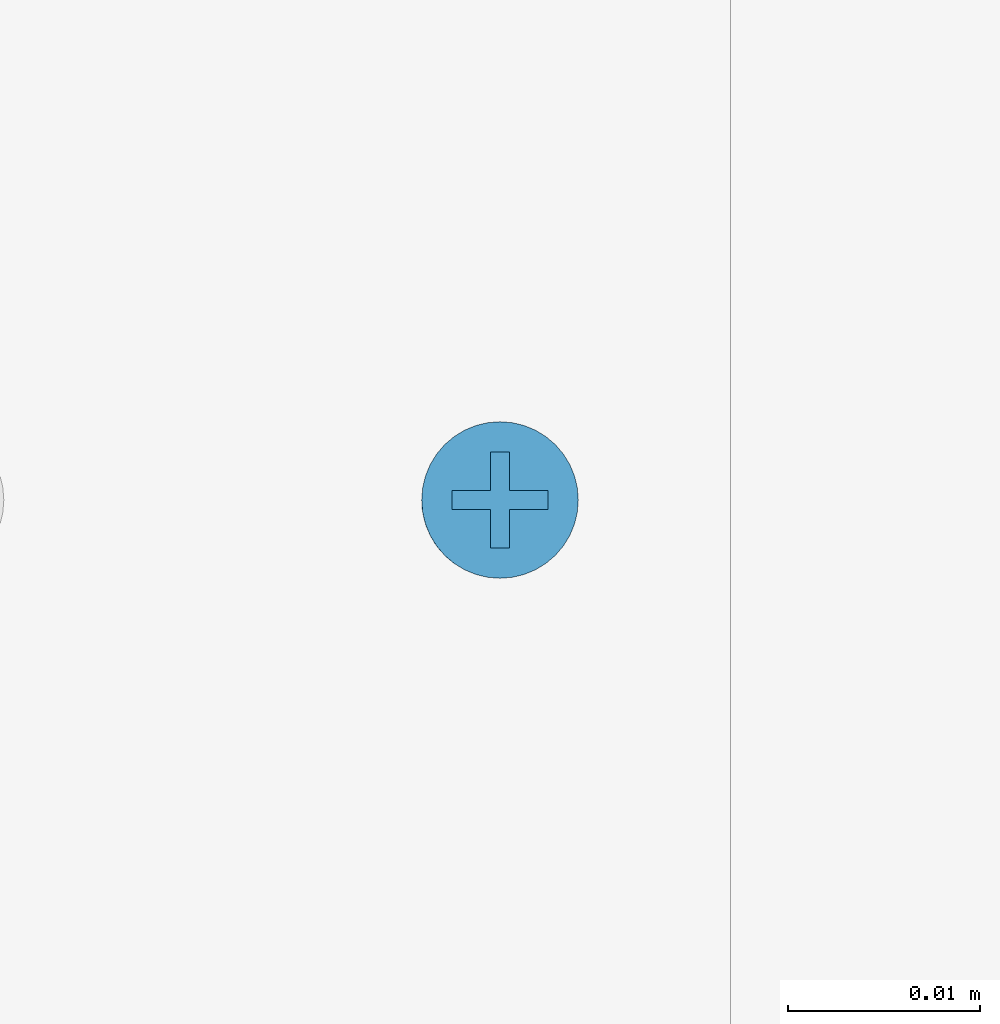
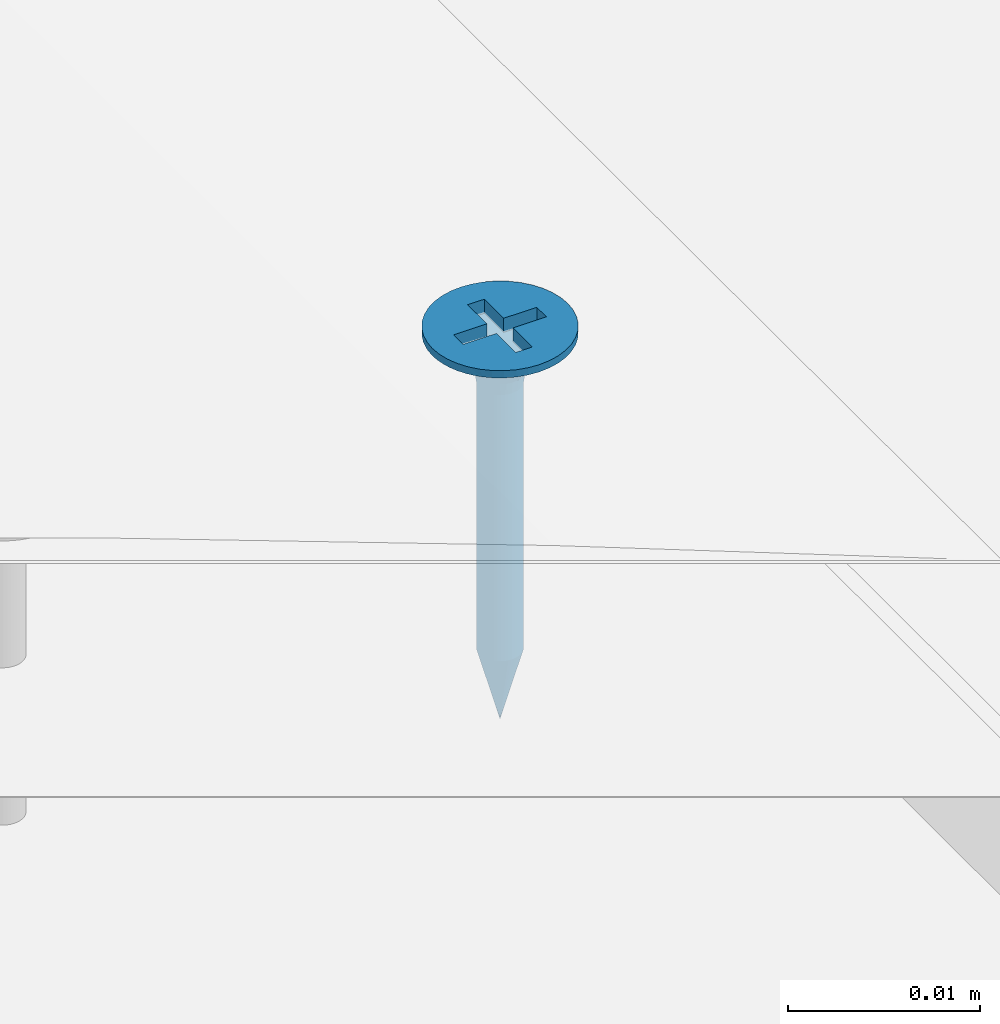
# One storey, part 7 of 38: 1 slab.
"""IFC2X3 building model written with IfcOpenShell, lengths in millimetres."""

import ifcopenshell
import ifcopenshell.guid

model = None  # the IFC model being written
_history = None  # IfcOwnerHistory: only IFC2X3 demands one
_inside = {}  # id of a spatial element -> (the spatial element, [elements in it])
_under = {}  # id of a project, library or spatial element -> (it, [spatial elements below it])
_declared = {}  # id of a project -> (the project, [libraries it declares])
_typed = {}  # id of a type object -> (the type object, [elements of that type])
_made_of = {}  # id of a material, layer set ... -> (it, [elements and type objects made of it])


def new_model(schema):
    """Start an empty IFC model of exactly this schema.

    Asked for "IFC4X3", IfcOpenShell would pick the latest addendum, in which some entities
    have other attributes; the version numbers below select the first issue.
    IFC2X3 requires an IfcOwnerHistory on every rooted entity: one is made here for all.
    """
    global model, _history
    if schema == "IFC4X3":
        model = ifcopenshell.file(schema_version=(4, 3, 0, 0))
    else:
        model = ifcopenshell.file(schema=schema)
    _inside.clear()
    _under.clear()
    _declared.clear()
    _typed.clear()
    _made_of.clear()
    _history = None
    if model.schema == "IFC2X3":
        org = make("IfcOrganization", Name="unknown")
        user = make(
            "IfcPersonAndOrganization",
            ThePerson=make("IfcPerson", FamilyName="unknown"),
            TheOrganization=org,
        )
        app = make(
            "IfcApplication",
            ApplicationDeveloper=org,
            Version="unknown",
            ApplicationFullName="unknown",
            ApplicationIdentifier="unknown",
        )
        _history = make(
            "IfcOwnerHistory",
            OwningUser=user,
            OwningApplication=app,
            ChangeAction="ADDED",
            CreationDate=0,
        )
    return model


def make(cls, **values):
    """One entity of the class cls with the attributes given. An attribute that is None is left unset."""
    return model.create_entity(
        cls, **{name: value for name, value in values.items() if value is not None}
    )


def entity(cls, *values):
    """Any entity or typed value of the class cls, its attributes in the order of the schema. None: left unset."""
    e = model.create_entity(cls)
    for i, value in enumerate(values):
        if value is not None:
            e[i] = value
    return e


def rooted(cls, **values):
    """An entity with a GlobalId (a new one), such as an element, a storey or a relation."""
    return make(cls, GlobalId=ifcopenshell.guid.new(), OwnerHistory=_history, **values)


def si_unit(unit_type, name, prefix=None):
    """IfcSIUnit, for example si_unit("LENGTHUNIT", "METRE", prefix="MILLI")."""
    return make("IfcSIUnit", UnitType=unit_type, Prefix=prefix, Name=name)


def converted_unit(unit_type, name, factor, base, dimensions=None, offset=None):
    """IfcConversionBasedUnit, such as the inch: factor (a typed value) times the base unit."""
    return make(
        "IfcConversionBasedUnit"
        if offset is None
        else "IfcConversionBasedUnitWithOffset",
        ConversionOffset=offset,
        Dimensions=None
        if dimensions is None
        else entity("IfcDimensionalExponents", *dimensions),
        UnitType=unit_type,
        Name=name,
        ConversionFactor=make(
            "IfcMeasureWithUnit", ValueComponent=factor, UnitComponent=base
        ),
    )


def assignment(units):
    """IfcUnitAssignment: the units of a project."""
    return None if units is None else make("IfcUnitAssignment", Units=units)


def point(xyz):
    """IfcCartesianPoint."""
    return None if xyz is None else make("IfcCartesianPoint", Coordinates=xyz)


def direction(xyz):
    """IfcDirection."""
    return None if xyz is None else make("IfcDirection", DirectionRatios=xyz)


def frame(location, z_axis=None, x_axis=None):
    """IfcAxis2Placement3D, a coordinate frame: its origin and axes. An axis left out is left unset."""
    return make(
        "IfcAxis2Placement3D",
        Location=point(location),
        Axis=direction(z_axis),
        RefDirection=direction(x_axis),
    )


def origin():
    """The frame at (0, 0, 0) with its axes left unset."""
    return frame((0.0, 0.0, 0.0))


def origin_with_axes():
    """The frame at (0, 0, 0) with the z axis (0, 0, 1) and the x axis (1, 0, 0) written out."""
    return frame((0.0, 0.0, 0.0), z_axis=(0.0, 0.0, 1.0), x_axis=(1.0, 0.0, 0.0))


def place(relative_to, where):
    """IfcLocalPlacement: puts the frame where relative to a parent placement (None: the world)."""
    return make(
        "IfcLocalPlacement", PlacementRelTo=relative_to, RelativePlacement=where
    )


def context(
    kind, dimensions, precision=None, world=None, true_north=None, identifier=None
):
    """IfcGeometricRepresentationContext, for example the 3D "Model" context."""
    return make(
        "IfcGeometricRepresentationContext",
        ContextIdentifier=identifier,
        ContextType=kind,
        CoordinateSpaceDimension=dimensions,
        Precision=precision,
        WorldCoordinateSystem=world,
        TrueNorth=true_north,
    )


def project(units=None, contexts=None):
    """IfcProject with its units and contexts."""
    return rooted(
        "IfcProject",
        Name="project",
        RepresentationContexts=contexts,
        UnitsInContext=assignment(units),
    )


def spatial(cls, under=None, at=None, **own):
    """A site, building, storey or space (cls), placed at a placement, below another one or the project."""
    s = rooted(cls, ObjectPlacement=at, **own)
    if under is not None:
        _under.setdefault(under.id(), (under, []))[1].append(s)
    return s


def faces_of(points, faces, orient=None, outer=None):
    """IfcFace entities. A face is a list of loops; a loop is a list of indices into points, from 0.

    orient and outer hold one flag for each loop. By default every Orientation is true, the
    first loop of a face is its IfcFaceOuterBound and the others are IfcFaceBound.
    """
    made = []
    for i, loops in enumerate(faces):
        bounds = []
        for j, loop in enumerate(loops):
            is_outer = j == 0 if outer is None else outer[i][j]
            bounds.append(
                make(
                    "IfcFaceOuterBound" if is_outer else "IfcFaceBound",
                    Bound=make("IfcPolyLoop", Polygon=[points[k] for k in loop]),
                    Orientation=True if orient is None else orient[i][j],
                )
            )
        made.append(make("IfcFace", Bounds=bounds))
    return made


def faceted_brep(points, faces, orient=None, outer=None, voids=None):
    """IfcFacetedBrep: a solid bounded by flat faces; with voids (closed shells), ...WithVoids."""
    shared = [point(p) for p in points]
    hull = make("IfcClosedShell", CfsFaces=faces_of(shared, faces, orient, outer))
    if voids is None:
        return make("IfcFacetedBrep", Outer=hull)
    return make(
        "IfcFacetedBrepWithVoids",
        Outer=hull,
        Voids=[
            make(cls, CfsFaces=faces_of(shared, fs, o, b)) for cls, fs, o, b in voids
        ],
    )


def shape(context_of_items, identifier, shape_type, items):
    """IfcShapeRepresentation: the items that make up one representation, for example the "Body"."""
    return make(
        "IfcShapeRepresentation",
        ContextOfItems=context_of_items,
        RepresentationIdentifier=identifier,
        RepresentationType=shape_type,
        Items=items,
    )


def made_of(thing, what):
    """Note that an element or type object is made of a material, layer set ...; save() writes the relation."""
    if what is not None:
        _made_of.setdefault(what.id(), (what, []))[1].append(thing)
    return thing


def element(
    cls,
    number,
    at=None,
    inside=None,
    cuts=None,
    type_object=None,
    material=None,
    context=None,
    identifier="Body",
    shape_type=None,
    held_by="IfcProductDefinitionShape",
    body=None,
    shapes=None,
    **own,
):
    """One element of the class cls, such as IfcWall. Its Tag is "e" and its number.

    at: its placement. inside: the storey or other place that contains it. cuts: it is an
    opening in that element (IfcRelVoidsElement). A single representation is given by context,
    identifier, shape_type and body (its items); several are given by shapes. held_by: the class
    of the entity that holds the representations. save() writes the other relations.
    """
    e = rooted(cls, Tag="e%d" % number, ObjectPlacement=at, **own)
    if body is not None:
        shapes = [shape(context, identifier, shape_type, body)]
    if shapes is not None:
        e.Representation = make(held_by, Representations=shapes)
    if inside is not None:
        _inside.setdefault(inside.id(), (inside, []))[1].append(e)
    if cuts is not None:
        rooted(
            "IfcRelVoidsElement", RelatingBuildingElement=cuts, RelatedOpeningElement=e
        )
    if type_object is not None:
        _typed.setdefault(type_object.id(), (type_object, []))[1].append(e)
    return made_of(e, material)


def aggregate(whole, parts):
    """IfcRelAggregates: a whole, such as a stair, and the parts it consists of."""
    return rooted("IfcRelAggregates", RelatingObject=whole, RelatedObjects=parts)


def save(model, path):
    """Write the relations noted so far, then the file.

    IfcRelAggregates (storeys below a building ...), IfcRelContainedInSpatialStructure (elements
    in a storey), IfcRelDefinesByType, IfcRelAssociatesMaterial and IfcRelDeclares: one each for
    every whole, place, type object, material and project.
    """
    for whole, parts in _under.values():
        aggregate(whole, parts)
    for where, things in _inside.values():
        rooted(
            "IfcRelContainedInSpatialStructure",
            RelatedElements=things,
            RelatingStructure=where,
        )
    for kind, things in _typed.values():
        rooted("IfcRelDefinesByType", RelatedObjects=things, RelatingType=kind)
    for what, things in _made_of.values():
        rooted("IfcRelAssociatesMaterial", RelatedObjects=things, RelatingMaterial=what)
    for by, libraries in _declared.values():
        rooted("IfcRelDeclares", RelatingContext=by, RelatedDefinitions=libraries)
    model.write(path)


model = new_model("IFC2X3")

# Units and contexts
model_context = context("Model", 3, precision=1e-05, world=origin(), true_north=direction((0.0, 1.0, 0.0)))
ifc_project = project(units=[si_unit("LENGTHUNIT", "METRE", prefix="MILLI"), si_unit("AREAUNIT", "SQUARE_METRE"), si_unit("VOLUMEUNIT", "CUBIC_METRE"), converted_unit("PLANEANGLEUNIT", "DEGREE", entity("IfcPlaneAngleMeasure", 0.01745), si_unit("PLANEANGLEUNIT", "RADIAN"), dimensions=[0, 0, 0, 0, 0, 0, 0]), si_unit("SOLIDANGLEUNIT", "STERADIAN"), si_unit("MASSUNIT", "GRAM"), si_unit("TIMEUNIT", "SECOND"), si_unit("THERMODYNAMICTEMPERATUREUNIT", "DEGREE_CELSIUS"), si_unit("LUMINOUSINTENSITYUNIT", "LUMEN")], contexts=[model_context])

# Site, building, storey
site_placement = place(None, origin_with_axes())
site = spatial("IfcSite", under=ifc_project, at=site_placement, Name="Default Site", CompositionType="ELEMENT")
building_placement = place(site_placement, origin_with_axes())
building = spatial("IfcBuilding", under=site, at=building_placement, Name="Default Building", CompositionType="ELEMENT")
storey_placement = place(building_placement, origin_with_axes())
storey = spatial("IfcBuildingStorey", under=building, at=storey_placement, Name="Default Building Storey", CompositionType="ELEMENT", Elevation=0.0)

# Slab
slab_placement = place(storey_placement, frame((1822.629648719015, 2007.717823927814, -3328.63691887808), z_axis=(1.0, 5.551115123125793e-17, -3.760325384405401e-13), x_axis=(-5.551115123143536e-17, 1.0, -4.718447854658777e-16)))
element("IfcSlab", 1, at=slab_placement, inside=storey, Name="Wkręt RIGIPS Rigidur 3,9x19 mm", context=model_context, shape_type="Brep", body=[
    faceted_brep([(-141.5377463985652, 3390.556721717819, 555.8000000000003), (-141.5377463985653, 3391.020944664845, 555.8000000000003), (-141.4875329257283, 3391.020944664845, 555.1619773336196), (-141.4875329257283, 3390.556721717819, 555.1619773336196), (-141.3381289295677, 3391.020944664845, 554.5396649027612), (-141.3381289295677, 3390.556721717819, 554.5396649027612), (-141.0932132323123, 3391.020944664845, 553.9483861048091), (-141.0932132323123, 3390.556721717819, 553.9483861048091), (-140.7588164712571, 3391.020944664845, 553.4027001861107), (-140.7588164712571, 3390.556721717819, 553.4027001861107), (-140.3431726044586, 3391.020944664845, 552.9160437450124), (-140.4541727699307, 3390.556721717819, 553.0314907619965), (-140.1080097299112, 3390.556721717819, 552.6986614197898), (-139.8565161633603, 3391.020944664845, 552.5003998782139), (-139.7251262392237, 3390.556721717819, 552.4088262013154), (-139.310830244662, 3391.020944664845, 552.1660031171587), (-139.310830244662, 3390.556721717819, 552.1660031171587), (-138.8708651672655, 3390.556721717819, 551.9735584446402), (-138.7195514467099, 3391.020944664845, 551.9210874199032), (-138.4113302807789, 3390.556721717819, 551.8341600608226), (-137.9385961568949, 3390.556721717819, 551.7497404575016), (-138.0972390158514, 3391.020944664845, 551.7716834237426), (-137.4592163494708, 3391.020944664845, 551.7214699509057), (-137.4592163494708, 3390.556721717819, 551.7214699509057), (-136.8211936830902, 3391.020944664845, 551.7716834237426), (-136.8211936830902, 3390.556721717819, 551.7716834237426), (-136.1988812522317, 3391.020944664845, 551.9210874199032), (-136.1988812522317, 3390.556721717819, 551.9210874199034), (-135.6076024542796, 3391.020944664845, 552.1660031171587), (-135.6076024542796, 3390.556721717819, 552.1660031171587), (-135.0619165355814, 3391.020944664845, 552.5003998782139), (-135.0619165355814, 3390.556721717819, 552.5003998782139), (-134.575260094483, 3391.020944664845, 552.9160437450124), (-134.575260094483, 3390.556721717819, 552.9160437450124), (-134.1596162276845, 3391.020944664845, 553.4027001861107), (-134.1596162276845, 3390.556721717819, 553.4027001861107), (-133.8252194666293, 3391.020944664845, 553.9483861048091), (-133.8252194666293, 3390.556721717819, 553.9483861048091), (-133.5803037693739, 3391.020944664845, 554.5396649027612), (-133.5803037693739, 3390.556721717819, 554.5396649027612), (-133.4308997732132, 3391.020944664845, 556.4380226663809), (-133.4308997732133, 3390.556721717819, 556.4380226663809), (-133.3806863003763, 3390.556721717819, 555.8000000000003), (-133.3806863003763, 3391.020944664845, 555.8000000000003), (-133.4308997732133, 3390.556721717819, 555.1619773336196), (-133.4308997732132, 3391.020944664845, 555.1619773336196), (-133.5803037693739, 3391.020944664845, 557.0603350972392), (-133.5803037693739, 3390.556721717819, 557.0603350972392), (-133.8252194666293, 3391.020944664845, 557.6516138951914), (-133.8252194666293, 3390.556721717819, 557.6516138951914), (-134.1596162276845, 3391.020944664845, 558.1972998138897), (-134.1596162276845, 3390.556721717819, 558.1972998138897), (-134.575260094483, 3391.020944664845, 558.683956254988), (-134.575260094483, 3390.556721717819, 558.683956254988), (-135.0619165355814, 3391.020944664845, 559.0996001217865), (-135.0619165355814, 3390.556721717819, 559.0996001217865), (-135.6076024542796, 3391.020944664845, 559.4339968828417), (-135.6076024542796, 3390.556721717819, 559.4339968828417), (-136.1988812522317, 3391.020944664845, 559.6789125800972), (-136.1988812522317, 3390.556721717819, 559.6789125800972), (-136.8211936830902, 3391.020944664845, 559.8283165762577), (-136.8211936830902, 3390.556721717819, 559.8283165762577), (-137.4592163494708, 3391.020944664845, 559.8785300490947), (-137.4592163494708, 3390.556721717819, 559.8785300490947), (-138.0972390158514, 3391.020944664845, 559.8283165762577), (-138.0972390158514, 3390.556721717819, 559.8283165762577), (-138.7195514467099, 3391.020944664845, 559.6789125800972), (-138.7195514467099, 3390.556721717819, 559.6789125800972), (-139.310830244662, 3391.020944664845, 559.4339968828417), (-139.310830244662, 3390.556721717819, 559.4339968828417), (-139.8565161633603, 3391.020944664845, 559.0996001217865), (-139.8565161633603, 3390.556721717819, 559.0996001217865), (-140.3431726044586, 3391.020944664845, 558.683956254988), (-140.3431726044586, 3390.556721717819, 558.683956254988), (-140.7588164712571, 3391.020944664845, 558.1972998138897), (-140.7588164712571, 3390.556721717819, 558.1972998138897), (-141.0932132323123, 3391.020944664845, 557.6516138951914), (-141.0932132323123, 3390.556721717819, 557.6516138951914), (-141.3381289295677, 3391.020944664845, 557.0603350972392), (-141.3381289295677, 3390.556721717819, 557.0603350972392), (-141.4875329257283, 3391.020944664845, 556.4380226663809), (-141.4875329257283, 3390.556721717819, 556.4380226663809), (-137.80606154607, 3388.229732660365, 554.5055560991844), (-137.4592163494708, 3387.475459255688, 554.5693795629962), (-137.6517277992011, 3387.475459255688, 554.5845305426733), (-137.4592163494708, 3388.229732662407, 554.4598930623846), (-137.8394989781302, 3387.475459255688, 554.6296104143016), (-138.1292698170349, 3388.229732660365, 554.639433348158), (-138.0179063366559, 3387.475459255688, 554.7035091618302), (-138.1825568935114, 3387.475459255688, 554.804407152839), (-138.4068150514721, 3388.229732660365, 554.8524012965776), (-138.3293964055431, 3387.475459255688, 554.929819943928), (-138.6197830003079, 3388.229732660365, 555.1299465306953), (-138.4548091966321, 3387.475459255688, 555.0766594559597), (-138.5557071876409, 3387.475459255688, 555.2413100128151), (-138.7536602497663, 3388.229732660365, 555.4531548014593), (-138.6296059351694, 3387.475459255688, 555.4197173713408), (-138.6746858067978, 3387.475459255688, 555.60748855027), (-138.7993232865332, 3388.229732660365, 555.7999999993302), (-138.6898367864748, 3387.475459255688, 555.8000000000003), (-138.753660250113, 3388.229732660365, 556.1468451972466), (-138.6746858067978, 3387.475459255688, 555.9925114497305), (-138.6296059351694, 3387.475459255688, 556.1802826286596), (-138.619783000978, 3388.229732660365, 556.4700534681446), (-138.5557071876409, 3387.475459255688, 556.3586899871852), (-138.4548091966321, 3387.475459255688, 556.5233405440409), (-138.4068150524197, 3388.229732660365, 556.7475987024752), (-138.3293964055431, 3387.475459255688, 556.6701800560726), (-138.1292698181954, 3388.229732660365, 556.9605666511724), (-138.1825568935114, 3387.475459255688, 556.7955928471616), (-138.0179063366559, 3387.475459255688, 556.8964908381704), (-137.8060615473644, 3388.229732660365, 557.0944439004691), (-137.8394989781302, 3387.475459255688, 556.9703895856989), (-137.6517277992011, 3387.475459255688, 557.0154694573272), (-137.4592163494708, 3388.229732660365, 557.1401069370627), (-137.4592163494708, 3387.475459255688, 557.0306204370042), (-137.1123711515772, 3388.229732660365, 557.0944439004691), (-137.2667048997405, 3387.475459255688, 557.0154694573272), (-137.0789337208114, 3387.475459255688, 556.9703895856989), (-136.7891628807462, 3388.229732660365, 556.9605666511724), (-136.9005263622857, 3387.475459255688, 556.8964908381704), (-136.7358758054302, 3387.475459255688, 556.7955928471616), (-136.5116176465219, 3388.229732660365, 556.7475987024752), (-136.5890362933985, 3387.475459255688, 556.6701800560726), (-136.2986496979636, 3388.229732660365, 556.4700534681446), (-136.4636235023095, 3387.475459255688, 556.5233405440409), (-136.3627255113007, 3387.475459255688, 556.3586899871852), (-136.1647724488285, 3388.229732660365, 556.1468451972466), (-136.2888267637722, 3387.475459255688, 556.1802826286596), (-136.2437468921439, 3387.475459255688, 555.9925114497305), (-136.1191094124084, 3388.229732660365, 555.7999999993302), (-136.2285959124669, 3387.475459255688, 555.8000000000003), (-136.1647724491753, 3388.229732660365, 555.4531548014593), (-136.2437468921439, 3387.475459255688, 555.60748855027), (-136.2888267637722, 3387.475459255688, 555.4197173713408), (-136.2986496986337, 3388.229732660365, 555.1299465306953), (-136.3627255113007, 3387.475459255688, 555.2413100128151), (-136.4636235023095, 3387.475459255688, 555.0766594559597), (-136.5116176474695, 3388.229732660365, 554.8524012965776), (-136.5890362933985, 3387.475459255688, 554.929819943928), (-136.7891628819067, 3388.229732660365, 554.639433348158), (-136.7358758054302, 3387.475459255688, 554.804407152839), (-136.9005263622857, 3387.475459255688, 554.7035091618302), (-137.1123711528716, 3388.229732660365, 554.5055560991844), (-137.0789337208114, 3387.475459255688, 554.6296104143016), (-137.2667048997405, 3387.475459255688, 554.5845305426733), (-137.4592163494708, 3388.936142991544, 554.1737111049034), (-137.8801308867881, 3388.936142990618, 554.229125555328), (-138.2723607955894, 3388.936142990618, 554.3915925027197), (-138.6091762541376, 3388.936142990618, 554.6500400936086), (-138.8676238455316, 3388.936142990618, 554.9868555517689), (-139.0300907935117, 3388.936142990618, 555.3790854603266), (-139.0855052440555, 3388.936142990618, 555.7999999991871), (-139.0300907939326, 3388.936142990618, 556.2209145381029), (-138.8676238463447, 3388.936142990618, 556.6131444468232), (-138.6091762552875, 3388.936142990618, 556.9499599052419), (-138.2723607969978, 3388.936142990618, 557.2084074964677), (-137.880130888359, 3388.936142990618, 557.3708744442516), (-137.4592163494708, 3388.936142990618, 557.426288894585), (-137.0383018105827, 3388.936142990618, 557.3708744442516), (-136.6460719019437, 3388.936142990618, 557.2084074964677), (-136.3092564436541, 3388.936142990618, 556.9499599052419), (-136.0508088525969, 3388.936142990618, 556.6131444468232), (-135.8883419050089, 3388.936142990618, 556.2209145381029), (-135.8329274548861, 3388.936142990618, 555.7999999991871), (-135.8883419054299, 3388.936142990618, 555.3790854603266), (-136.05080885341, 3388.936142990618, 554.9868555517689), (-136.309256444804, 3388.936142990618, 554.6500400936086), (-136.6460719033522, 3388.936142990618, 554.3915925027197), (-137.0383018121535, 3388.936142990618, 554.229125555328), (-137.4592163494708, 3389.553938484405, 553.7273431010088), (-137.9956594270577, 3389.553938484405, 553.7979671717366), (-138.4955447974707, 3389.553938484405, 554.005026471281), (-138.9248060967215, 3389.553938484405, 554.3344102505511), (-139.2541898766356, 3389.553938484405, 554.7636715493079), (-139.4612491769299, 3389.553938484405, 555.2635569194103), (-139.5318732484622, 3389.553938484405, 555.7999999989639), (-139.4612491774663, 3389.553938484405, 556.3364430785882), (-139.2541898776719, 3389.553938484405, 556.8363284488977), (-138.9248060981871, 3389.553938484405, 557.2655897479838), (-138.4955447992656, 3389.553938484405, 557.594973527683), (-137.9956594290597, 3389.553938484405, 557.8020328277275), (-137.4592163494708, 3389.553938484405, 557.8726568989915), (-136.9227732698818, 3389.553938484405, 557.8020328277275), (-136.4228878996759, 3389.553938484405, 557.594973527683), (-135.9936266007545, 3389.553938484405, 557.2655897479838), (-135.6642428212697, 3389.553938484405, 556.8363284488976), (-135.4571835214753, 3389.553938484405, 556.3364430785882), (-135.3865594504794, 3389.553938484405, 555.7999999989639), (-135.4571835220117, 3389.553938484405, 555.2635569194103), (-135.664242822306, 3389.553938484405, 554.7636715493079), (-135.9936266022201, 3389.553938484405, 554.3344102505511), (-136.4228879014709, 3389.553938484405, 554.005026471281), (-136.9227732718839, 3389.553938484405, 553.7979671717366), (-137.4592163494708, 3390.047479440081, 553.1465393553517), (-138.1459824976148, 3390.047479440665, 553.2369538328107), (-138.7859466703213, 3390.047479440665, 553.5020356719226), (-139.3354963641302, 3390.047479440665, 553.9237199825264), (-139.7571806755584, 3390.047479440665, 554.4732696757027), (-140.0222625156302, 3390.047479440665, 555.1132338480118), (-140.1126769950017, 3390.047479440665, 555.7999999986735), (-140.0222625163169, 3390.047479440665, 556.4867661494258), (-139.7571806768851, 3390.047479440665, 557.1267303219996), (-139.3354963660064, 3390.047479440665, 557.6762800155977), (-138.7859466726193, 3390.047479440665, 558.0979643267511), (-138.1459825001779, 3390.047479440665, 558.3630461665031), (-137.4592163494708, 3390.047479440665, 558.4534606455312), (-136.7724501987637, 3390.047479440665, 558.3630461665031), (-136.1324860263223, 3390.047479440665, 558.0979643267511), (-135.5829363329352, 3390.047479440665, 557.6762800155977), (-135.1612520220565, 3390.047479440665, 557.1267303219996), (-134.8961701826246, 3390.047479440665, 556.4867661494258), (-134.8057557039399, 3390.047479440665, 555.7999999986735), (-134.8961701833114, 3390.047479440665, 555.1132338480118), (-135.1612520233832, 3390.047479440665, 554.4732696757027), (-135.5829363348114, 3390.047479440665, 553.9237199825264), (-136.1324860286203, 3390.047479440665, 553.5020356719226), (-136.7724502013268, 3390.047479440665, 553.2369538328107), (-137.4592163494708, 3390.388294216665, 552.4648055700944), (-138.3224281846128, 3390.388294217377, 552.578449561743), (-139.1268135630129, 3390.388294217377, 552.9116368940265), (-139.8175549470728, 3390.388294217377, 553.4416613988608), (-140.3475794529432, 3390.388294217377, 554.1324027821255), (-140.6807667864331, 3390.388294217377, 554.9367881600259), (-140.7944107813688, 3390.388294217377, 555.7999999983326), (-140.6807667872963, 3390.388294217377, 556.6632118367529), (-140.3475794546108, 3390.388294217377, 557.4675972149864), (-139.8175549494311, 3390.388294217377, 558.1583385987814), (-139.1268135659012, 3390.388294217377, 558.6883631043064), (-138.3224281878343, 3390.388294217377, 559.0215504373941), (-137.4592163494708, 3390.388294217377, 559.1351944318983), (-136.5960045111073, 3390.388294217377, 559.0215504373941), (-135.7916191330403, 3390.388294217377, 558.6883631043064), (-135.1008777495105, 3390.388294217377, 558.1583385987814), (-134.5708532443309, 3390.388294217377, 557.4675972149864), (-134.2376659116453, 3390.388294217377, 556.6632118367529), (-134.1240219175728, 3390.388294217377, 555.7999999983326), (-134.2376659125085, 3390.388294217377, 554.9367881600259), (-134.5708532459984, 3390.388294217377, 554.1324027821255), (-135.1008777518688, 3390.388294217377, 553.4416613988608), (-135.7916191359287, 3390.388294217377, 552.9116368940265), (-136.5960045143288, 3390.388294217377, 552.578449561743), (-138.6898367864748, 3370.55807436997, 555.8000000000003), (-138.6746858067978, 3370.55807436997, 555.60748855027), (-138.6296059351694, 3370.55807436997, 555.4197173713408), (-138.5557071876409, 3370.55807436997, 555.2413100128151), (-138.4548091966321, 3370.55807436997, 555.0766594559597), (-138.3293964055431, 3370.55807436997, 554.929819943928), (-138.1825568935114, 3370.55807436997, 554.804407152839), (-138.0179063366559, 3370.55807436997, 554.7035091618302), (-137.8394989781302, 3370.55807436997, 554.6296104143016), (-137.6517277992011, 3370.55807436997, 554.5845305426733), (-137.4592163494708, 3370.55807436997, 554.5693795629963), (-137.2667048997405, 3370.55807436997, 554.5845305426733), (-137.0789337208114, 3370.55807436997, 554.6296104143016), (-136.9005263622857, 3370.55807436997, 554.7035091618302), (-136.7358758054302, 3370.55807436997, 554.804407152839), (-136.5890362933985, 3370.55807436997, 554.929819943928), (-136.4636235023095, 3370.55807436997, 555.0766594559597), (-136.3627255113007, 3370.55807436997, 555.2413100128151), (-136.2888267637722, 3370.55807436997, 555.4197173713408), (-136.2437468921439, 3370.55807436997, 555.9925114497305), (-136.2285959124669, 3370.55807436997, 555.8000000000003), (-136.2437468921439, 3370.55807436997, 555.60748855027), (-136.2888267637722, 3370.55807436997, 556.1802826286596), (-136.3627255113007, 3370.55807436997, 556.3586899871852), (-136.4636235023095, 3370.55807436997, 556.5233405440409), (-136.5890362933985, 3370.55807436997, 556.6701800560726), (-136.7358758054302, 3370.55807436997, 556.7955928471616), (-136.9005263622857, 3370.55807436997, 556.8964908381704), (-137.0789337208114, 3370.55807436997, 556.9703895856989), (-137.2667048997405, 3370.55807436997, 557.0154694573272), (-137.4592163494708, 3370.55807436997, 557.0306204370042), (-137.6517277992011, 3370.55807436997, 557.0154694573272), (-137.8394989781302, 3370.55807436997, 556.9703895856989), (-138.0179063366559, 3370.55807436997, 556.8964908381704), (-138.1825568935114, 3370.55807436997, 556.7955928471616), (-138.3293964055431, 3370.55807436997, 556.6701800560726), (-138.4548091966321, 3370.55807436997, 556.5233405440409), (-138.5557071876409, 3370.55807436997, 556.3586899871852), (-138.6296059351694, 3370.55807436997, 556.1802826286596), (-138.6746858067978, 3370.55807436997, 555.9925114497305), (-137.4592163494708, 3366.021033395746, 555.8000000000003), (-139.9592163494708, 3391.020944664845, 556.3000000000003), (-137.9592163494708, 3391.020944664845, 556.3000000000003), (-139.9592163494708, 3391.020944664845, 555.3000000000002), (-137.9592163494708, 3391.020944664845, 555.3000000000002), (-137.9592163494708, 3391.020944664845, 553.3000000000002), (-136.9592163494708, 3391.020944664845, 553.3000000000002), (-136.9592163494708, 3391.020944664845, 555.3000000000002), (-134.9592163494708, 3391.020944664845, 555.3000000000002), (-134.9592163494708, 3391.020944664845, 556.3000000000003), (-136.9592163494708, 3391.020944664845, 556.3000000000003), (-136.9592163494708, 3391.020944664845, 558.3000000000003), (-137.9592163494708, 3391.020944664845, 558.3000000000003), (-136.9592163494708, 3390.128974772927, 556.3000000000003), (-134.9592163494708, 3390.128974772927, 556.3000000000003), (-134.9592163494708, 3390.128974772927, 555.3000000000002), (-136.9592163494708, 3390.128974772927, 555.3000000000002), (-136.9592163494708, 3390.128974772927, 553.3000000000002), (-137.9592163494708, 3390.128974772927, 553.3000000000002), (-137.9592163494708, 3390.128974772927, 555.3000000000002), (-139.9592163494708, 3390.128974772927, 555.3000000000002), (-139.9592163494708, 3390.128974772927, 556.3000000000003), (-137.9592163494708, 3390.128974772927, 556.3000000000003), (-137.9592163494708, 3390.128974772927, 558.3000000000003), (-136.9592163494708, 3390.128974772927, 558.3000000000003)], [[[0, 1, 2, 3]], [[4, 5, 3, 2]], [[6, 7, 5, 4]], [[7, 6, 8, 9]], [[8, 10, 9]], [[10, 11, 9]], [[12, 11, 13]], [[11, 10, 13]], [[13, 14, 12]], [[13, 15, 14]], [[15, 16, 14]], [[17, 16, 18]], [[16, 15, 18]], [[18, 19, 17]], [[20, 19, 21]], [[19, 18, 21]], [[21, 22, 20]], [[22, 23, 20]], [[23, 22, 24, 25]], [[26, 27, 25, 24]], [[28, 29, 27, 26]], [[29, 28, 30, 31]], [[32, 33, 31, 30]], [[33, 32, 34, 35]], [[36, 37, 35, 34]], [[38, 39, 37, 36]], [[40, 41, 42, 43]], [[43, 42, 44, 45]], [[39, 38, 45, 44]], [[46, 47, 41, 40]], [[48, 49, 47, 46]], [[49, 48, 50, 51]], [[52, 53, 51, 50]], [[53, 52, 54, 55]], [[56, 57, 55, 54]], [[58, 59, 57, 56]], [[59, 58, 60, 61]], [[62, 63, 61, 60]], [[63, 62, 64, 65]], [[66, 67, 65, 64]], [[68, 69, 67, 66]], [[69, 68, 70, 71]], [[72, 73, 71, 70]], [[73, 72, 74, 75]], [[76, 77, 75, 74]], [[78, 79, 77, 76]], [[79, 78, 80, 81]], [[1, 0, 81, 80]], [[82, 83, 84]], [[82, 85, 83]], [[84, 86, 82]], [[82, 86, 87]], [[88, 87, 86]], [[87, 88, 89]], [[89, 90, 87]], [[89, 91, 90]], [[92, 91, 93]], [[92, 90, 91]], [[93, 94, 92]], [[92, 94, 95]], [[96, 95, 94]], [[95, 96, 97]], [[97, 98, 95]], [[97, 99, 98]], [[100, 99, 101]], [[100, 98, 99]], [[101, 102, 100]], [[100, 102, 103]], [[104, 103, 102]], [[103, 104, 105]], [[105, 106, 103]], [[105, 107, 106]], [[108, 107, 109]], [[108, 106, 107]], [[109, 110, 108]], [[108, 110, 111]], [[112, 111, 110]], [[111, 112, 113]], [[113, 114, 111]], [[113, 115, 114]], [[116, 115, 117]], [[116, 114, 115]], [[117, 118, 116]], [[116, 118, 119]], [[120, 119, 118]], [[119, 120, 121]], [[121, 122, 119]], [[121, 123, 122]], [[124, 123, 125]], [[124, 122, 123]], [[125, 126, 124]], [[124, 126, 127]], [[128, 127, 126]], [[127, 128, 129]], [[129, 130, 127]], [[129, 131, 130]], [[132, 131, 133]], [[132, 130, 131]], [[133, 134, 132]], [[132, 134, 135]], [[136, 135, 134]], [[135, 136, 137]], [[137, 138, 135]], [[137, 139, 138]], [[140, 139, 141]], [[140, 138, 139]], [[141, 142, 140]], [[140, 142, 143]], [[144, 143, 142]], [[143, 144, 145]], [[145, 85, 143]], [[145, 83, 85]], [[146, 85, 147]], [[82, 147, 85]], [[87, 148, 147, 82]], [[90, 149, 148, 87]], [[92, 150, 149, 90]], [[95, 151, 150, 92]], [[98, 152, 151, 95]], [[100, 153, 152, 98]], [[103, 154, 153, 100]], [[106, 155, 154, 103]], [[108, 156, 155, 106]], [[111, 157, 156, 108]], [[114, 158, 157, 111]], [[116, 159, 158, 114]], [[119, 160, 159, 116]], [[122, 161, 160, 119]], [[124, 162, 161, 122]], [[127, 163, 162, 124]], [[130, 164, 163, 127]], [[132, 165, 164, 130]], [[135, 166, 165, 132]], [[138, 167, 166, 135]], [[140, 168, 167, 138]], [[143, 169, 168, 140]], [[143, 85, 169]], [[146, 169, 85]], [[170, 146, 171]], [[147, 171, 146]], [[148, 172, 171, 147]], [[149, 173, 172, 148]], [[150, 174, 173, 149]], [[151, 175, 174, 150]], [[152, 176, 175, 151]], [[153, 177, 176, 152]], [[154, 178, 177, 153]], [[155, 179, 178, 154]], [[156, 180, 179, 155]], [[157, 181, 180, 156]], [[158, 182, 181, 157]], [[159, 183, 182, 158]], [[160, 184, 183, 159]], [[161, 185, 184, 160]], [[162, 186, 185, 161]], [[163, 187, 186, 162]], [[164, 188, 187, 163]], [[165, 189, 188, 164]], [[166, 190, 189, 165]], [[167, 191, 190, 166]], [[168, 192, 191, 167]], [[169, 193, 192, 168]], [[169, 146, 193]], [[170, 193, 146]], [[194, 170, 195]], [[171, 195, 170]], [[172, 196, 195, 171]], [[173, 197, 196, 172]], [[174, 198, 197, 173]], [[175, 199, 198, 174]], [[176, 200, 199, 175]], [[177, 201, 200, 176]], [[178, 202, 201, 177]], [[179, 203, 202, 178]], [[180, 204, 203, 179]], [[181, 205, 204, 180]], [[182, 206, 205, 181]], [[183, 207, 206, 182]], [[184, 208, 207, 183]], [[185, 209, 208, 184]], [[186, 210, 209, 185]], [[187, 211, 210, 186]], [[188, 212, 211, 187]], [[189, 213, 212, 188]], [[190, 214, 213, 189]], [[191, 215, 214, 190]], [[192, 216, 215, 191]], [[193, 217, 216, 192]], [[193, 170, 217]], [[194, 217, 170]], [[218, 19, 20]], [[218, 219, 19]], [[20, 23, 218]], [[218, 194, 219]], [[195, 219, 194]], [[219, 16, 17]], [[219, 220, 16]], [[17, 19, 219]], [[196, 220, 219, 195]], [[221, 11, 12]], [[220, 12, 14]], [[220, 221, 12]], [[14, 16, 220]], [[197, 221, 220, 196]], [[222, 7, 9]], [[9, 221, 222]], [[9, 11, 221]], [[198, 222, 221, 197]], [[5, 7, 223]], [[222, 223, 7]], [[199, 223, 222, 198]], [[223, 0, 3]], [[223, 224, 0]], [[3, 5, 223]], [[200, 224, 223, 199]], [[225, 79, 81]], [[81, 224, 225]], [[81, 0, 224]], [[201, 225, 224, 200]], [[225, 226, 77, 79]], [[202, 226, 225, 201]], [[226, 73, 75]], [[226, 227, 73]], [[75, 77, 226]], [[203, 227, 226, 202]], [[228, 69, 71]], [[71, 227, 228]], [[71, 73, 227]], [[204, 228, 227, 203]], [[228, 229, 67, 69]], [[205, 229, 228, 204]], [[229, 63, 65]], [[229, 230, 63]], [[65, 67, 229]], [[206, 230, 229, 205]], [[231, 59, 61]], [[61, 230, 231]], [[61, 63, 230]], [[207, 231, 230, 206]], [[231, 232, 57, 59]], [[208, 232, 231, 207]], [[232, 53, 55]], [[232, 233, 53]], [[55, 57, 232]], [[209, 233, 232, 208]], [[234, 49, 51]], [[51, 233, 234]], [[51, 53, 233]], [[210, 234, 233, 209]], [[234, 235, 47, 49]], [[211, 235, 234, 210]], [[235, 42, 41]], [[235, 236, 42]], [[41, 47, 235]], [[212, 236, 235, 211]], [[237, 39, 44]], [[44, 236, 237]], [[44, 42, 236]], [[213, 237, 236, 212]], [[37, 39, 238]], [[237, 238, 39]], [[214, 238, 237, 213]], [[238, 33, 35]], [[238, 239, 33]], [[35, 37, 238]], [[215, 239, 238, 214]], [[240, 29, 31]], [[31, 239, 240]], [[31, 33, 239]], [[216, 240, 239, 215]], [[27, 29, 241]], [[240, 241, 29]], [[217, 241, 240, 216]], [[217, 194, 241]], [[218, 241, 194]], [[241, 23, 25]], [[241, 218, 23]], [[25, 27, 241]], [[242, 99, 97, 243]], [[96, 244, 243, 97]], [[94, 245, 244, 96]], [[245, 94, 93, 246]], [[91, 247, 246, 93]], [[247, 91, 89, 248]], [[88, 249, 248, 89]], [[86, 250, 249, 88]], [[250, 86, 84, 251]], [[83, 252, 251, 84]], [[252, 83, 145, 253]], [[144, 254, 253, 145]], [[142, 255, 254, 144]], [[255, 142, 141, 256]], [[139, 257, 256, 141]], [[257, 139, 137, 258]], [[136, 259, 258, 137]], [[134, 260, 259, 136]], [[129, 261, 262, 131]], [[131, 262, 263, 133]], [[260, 134, 133, 263]], [[128, 264, 261, 129]], [[126, 265, 264, 128]], [[265, 126, 125, 266]], [[123, 267, 266, 125]], [[267, 123, 121, 268]], [[120, 269, 268, 121]], [[118, 270, 269, 120]], [[270, 118, 117, 271]], [[115, 272, 271, 117]], [[272, 115, 113, 273]], [[112, 274, 273, 113]], [[110, 275, 274, 112]], [[275, 110, 109, 276]], [[107, 277, 276, 109]], [[277, 107, 105, 278]], [[104, 279, 278, 105]], [[102, 280, 279, 104]], [[280, 102, 101, 281]], [[99, 242, 281, 101]], [[243, 244, 282]], [[282, 242, 243]], [[244, 245, 282]], [[246, 247, 282]], [[282, 245, 246]], [[248, 249, 282]], [[282, 247, 248]], [[249, 250, 282]], [[251, 252, 282]], [[282, 250, 251]], [[253, 254, 282]], [[282, 252, 253]], [[254, 255, 282]], [[256, 257, 282]], [[282, 255, 256]], [[258, 259, 282]], [[282, 257, 258]], [[259, 260, 282]], [[263, 262, 282]], [[282, 260, 263]], [[261, 264, 282]], [[282, 262, 261]], [[264, 265, 282]], [[266, 267, 282]], [[282, 265, 266]], [[268, 269, 282]], [[282, 267, 268]], [[269, 270, 282]], [[271, 272, 282]], [[282, 270, 271]], [[273, 274, 282]], [[282, 272, 273]], [[274, 275, 282]], [[276, 277, 282]], [[282, 275, 276]], [[278, 279, 282]], [[282, 277, 278]], [[279, 280, 282]], [[281, 242, 282]], [[282, 280, 281]], [[283, 76, 74, 284]], [[283, 285, 286, 287, 288, 289, 290, 291, 292, 293, 294, 284, 74, 72, 70, 68, 66, 64, 62, 60, 58, 56, 54, 52, 50, 48, 46, 40, 43, 45, 38, 36, 34, 32, 30, 28, 26, 24, 22, 21, 18, 15, 13, 10, 8, 6, 4, 2, 1, 80, 78, 76]], [[295, 296, 297, 298, 299, 300, 301, 302, 303, 304, 305, 306]], [[297, 290, 289, 298]], [[296, 291, 290, 297]], [[295, 292, 291, 296]], [[306, 293, 292, 295]], [[305, 294, 293, 306]], [[304, 284, 294, 305]], [[303, 283, 284, 304]], [[302, 285, 283, 303]], [[301, 286, 285, 302]], [[300, 287, 286, 301]], [[299, 288, 287, 300]], [[298, 289, 288, 299]]]),
])

save(model, "model.ifc")
